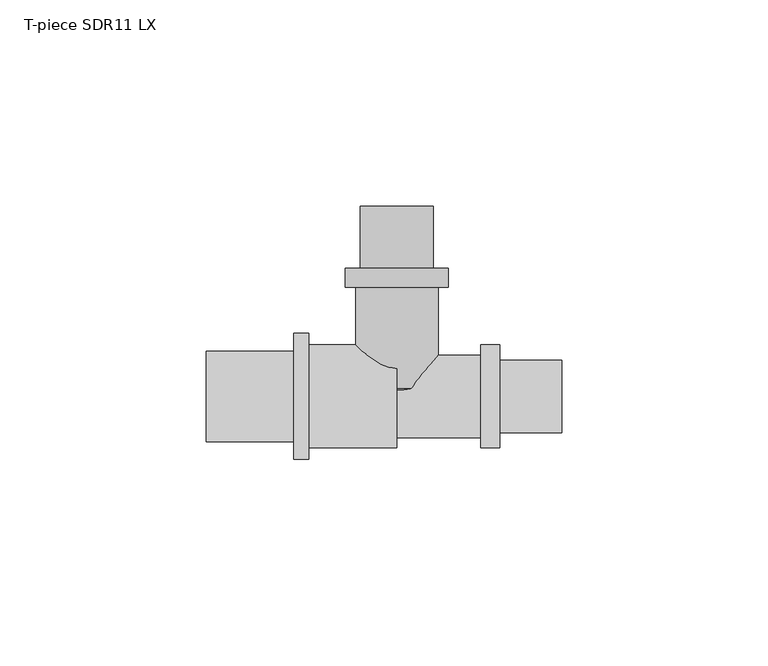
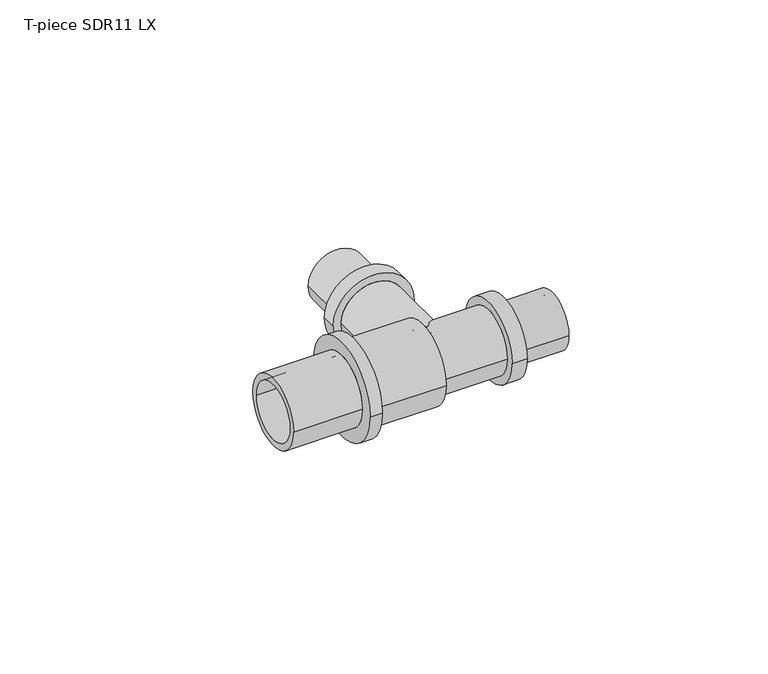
"""IFC4 building model written with IfcOpenShell, lengths in millimetres: pipe fitting geometry, T-piece SDR11 LX : T-piece LX SDR11 LX."""

from ifc_helpers import new_model, si_unit, point, frame, origin, place, context, project, spatial, polyline, circle_curve, ellipse_curve, trimmed, source, transform, mapped, element, save
from ifc_brep_helpers import plane_surface, cylinder_surface, revolved_surface, advanced_brep


def t_piece_sdr11_lx_fe109eb9(model_context):
    return source(origin(), model_context, "Body", "AdvancedBrep", [
        advanced_brep(
        [(10.0, 1.917756, 0.0), (-10.0, 1.917756, 0.0), (-10.0, 26.4, 0.0), (10.0, 26.4, 0.0), (6.8, 46.1, 0.0), (-6.8, 46.1, 0.0), (-6.8, 0.0, 0.0), (6.8, 0.0, 0.0), (8.8, 31.1, 0.0), (-8.8, 31.1, 0.0), (-8.8, 46.1, 0.0), (8.8, 46.1, 0.0), (12.5, 26.4, 0.0), (-12.5, 26.4, 0.0), (-12.5, 31.1, 0.0), (12.5, 31.1, 0.0)],
        [
            (0, 1, circle_curve(frame((0.0, 1.917756, 0.0), z_axis=(0.0, 1.0, 0.0), x_axis=(-1.0, 0.0, 0.0)), 10.0)),
            (1, 2),
            (2, 3, circle_curve(frame((0.0, 26.4, 0.0), z_axis=(0.0, -1.0, 0.0), x_axis=(-1.0, 0.0, 0.0)), 10.0)),
            (3, 0),
            (4, 5, circle_curve(frame((0.0, 46.1, 0.0), z_axis=(0.0, 1.0, 0.0), x_axis=(-1.0, 0.0, 0.0)), 6.8)),
            (5, 6),
            (6, 7, circle_curve(frame((0.0, 0.0, 0.0), z_axis=(0.0, -1.0, 0.0), x_axis=(-1.0, 0.0, 0.0)), 6.8)),
            (7, 4),
            (8, 9, circle_curve(frame((0.0, 31.1, 0.0), z_axis=(0.0, 1.0, 0.0), x_axis=(-1.0, 0.0, 0.0)), 8.8)),
            (9, 10),
            (10, 11, circle_curve(frame((0.0, 46.1, 0.0), z_axis=(0.0, -1.0, 0.0), x_axis=(-1.0, 0.0, 0.0)), 8.8)),
            (11, 8),
            (12, 13, circle_curve(frame((0.0, 26.4, 0.0), z_axis=(0.0, 1.0, 0.0), x_axis=(-1.0, 0.0, 0.0)), 12.5)),
            (13, 14),
            (14, 15, circle_curve(frame((0.0, 31.1, 0.0), z_axis=(0.0, -1.0, 0.0), x_axis=(-1.0, 0.0, 0.0)), 12.5)),
            (15, 12),
            (12, 13, circle_curve(frame((0.0, 26.4, 0.0), z_axis=(0.0, -1.0, 0.0), x_axis=(1.0, 0.0, 0.0)), 12.5)),
            (2, 3, circle_curve(frame((0.0, 26.4, 0.0), z_axis=(0.0, 1.0, 0.0), x_axis=(1.0, 0.0, 0.0)), 10.0)),
            (1, 0, circle_curve(frame((0.0, 1.917756, 0.0), z_axis=(0.0, 1.0, 0.0), x_axis=(1.0, 0.0, 0.0)), 10.0)),
            (5, 4, circle_curve(frame((0.0, 46.1, 0.0), z_axis=(0.0, 1.0, 0.0), x_axis=(1.0, 0.0, 0.0)), 6.8)),
            (7, 6, circle_curve(frame((0.0, 0.0, 0.0), z_axis=(0.0, -1.0, 0.0), x_axis=(1.0, 0.0, 0.0)), 6.8)),
            (10, 11, circle_curve(frame((0.0, 46.1, 0.0), z_axis=(0.0, 1.0, 0.0), x_axis=(1.0, 0.0, 0.0)), 8.8)),
            (9, 8, circle_curve(frame((0.0, 31.1, 0.0), z_axis=(0.0, 1.0, 0.0), x_axis=(1.0, 0.0, 0.0)), 8.8)),
            (14, 15, circle_curve(frame((0.0, 31.1, 0.0), z_axis=(0.0, 1.0, 0.0), x_axis=(1.0, 0.0, 0.0)), 12.5)),
            (6, 1, circle_curve(frame((-2.0462802, 11.5608022, 0.0), z_axis=(0.0, 0.0, -1.0), x_axis=(0.0, -1.0, 0.0)), 12.5)),
            (0, 7, circle_curve(frame((2.0462802, 11.5608022, 0.0), z_axis=(0.0, 0.0, -1.0), x_axis=(0.0, -1.0, 0.0)), 12.5)),
        ],
        [
            cylinder_surface(frame((0.0, 0.0, 0.0), z_axis=(0.0, -1.0, 0.0), x_axis=(-1.0, 0.0, 0.0)), 10.0),
            revolved_surface(polyline([(-6.8, 0.0, 0.0), (-6.8, 46.1, 0.0)]), (0.0, 0.0, 0.0), (0.0, -1.0, 0.0)),
            cylinder_surface(frame((0.0, 0.0, 0.0), z_axis=(0.0, -1.0, 0.0), x_axis=(-1.0, 0.0, 0.0)), 8.8),
            cylinder_surface(frame((0.0, 0.0, 0.0), z_axis=(0.0, -1.0, 0.0), x_axis=(-1.0, 0.0, 0.0)), 12.5),
            plane_surface(frame((0.0, 26.4, 0.0), z_axis=(0.0, -1.0, 0.0), x_axis=(1.0, 0.0, 0.0))),
            cylinder_surface(frame((0.0, 0.0, 0.0), z_axis=(0.0, -1.0, 0.0), x_axis=(1.0, 0.0, 0.0)), 10.0),
            revolved_surface(polyline([(6.8, 0.0, 0.0), (6.8, 46.1, 0.0)]), (0.0, 0.0, 0.0), (0.0, -1.0, 0.0)),
            plane_surface(frame((0.0, 46.1, 0.0), z_axis=(0.0, 1.0, 0.0), x_axis=(1.0, 0.0, 0.0))),
            cylinder_surface(frame((0.0, 0.0, 0.0), z_axis=(0.0, -1.0, 0.0), x_axis=(1.0, 0.0, 0.0)), 8.8),
            plane_surface(frame((0.0, 31.1, 0.0), z_axis=(0.0, 1.0, 0.0), x_axis=(1.0, 0.0, 0.0))),
            cylinder_surface(frame((0.0, 0.0, 0.0), z_axis=(0.0, -1.0, 0.0), x_axis=(1.0, 0.0, 0.0)), 12.5),
            revolved_surface(trimmed(ellipse_curve(frame((-2.0462802, 11.5608022, 0.0), z_axis=(0.0, 0.0, 1.0), x_axis=(0.0, -1.0, 0.0)), 12.5, 12.5), [point((-10.0, 1.917756, 0.0))], [point((-6.8, 0.0, 0.0))], True, "CARTESIAN"), (0.0, 0.0, 0.0), (0.0, -1.0, 0.0)),
            revolved_surface(trimmed(ellipse_curve(frame((2.0462802, 11.5608022, 0.0), z_axis=(0.0, 0.0, -1.0), x_axis=(0.0, -1.0, 0.0)), 12.5, 12.5), [point((10.0, 1.917756, 0.0))], [point((6.8, 0.0, 0.0))], True, "CARTESIAN"), (0.0, 0.0, 0.0), (0.0, -1.0, 0.0)),
        ],
        [
            (0, [[1, 2, 3, 4]]),
            (1, [[5, 6, 7, 8]]),
            (2, [[9, 10, 11, 12]]),
            (3, [[13, 14, 15, 16]]),
            (4, [[17, -13], [18, -3]]),
            (5, [[19, -4, -18, -2]]),
            (6, [[20, -8, 21, -6]]),
            (7, [[22, -11], [-20, -5]]),
            (8, [[23, -12, -22, -10]]),
            (9, [[24, -15], [-23, -9]]),
            (10, [[-17, -16, -24, -14]]),
            (11, [[-7, 25, -1, 26]]),
            (12, [[-21, -26, -19, -25]]),
        ],
    ),
        advanced_brep(
        [(20.3, 10.0, 0.0), (20.3, -10.0, 0.0), (0.0, -10.0, 0.0), (0.0, 10.0, 0.0), (0.0, 6.8, 0.0), (0.0, -6.8, 0.0), (40.0, -6.8, 0.0), (40.0, 6.8, 0.0), (40.0, 8.8, 0.0), (40.0, -8.8, 0.0), (25.0, -8.8, 0.0), (25.0, 8.8, 0.0), (25.0, 12.5, 0.0), (25.0, -12.5, 0.0), (20.3, -12.5, 0.0), (20.3, 12.5, 0.0)],
        [
            (0, 1, circle_curve(frame((20.3, 0.0, 0.0), z_axis=(-1.0, 0.0, 0.0), x_axis=(0.0, -1.0, 0.0)), 10.0)),
            (1, 2),
            (2, 3, circle_curve(frame((0.0, 0.0, 0.0), z_axis=(1.0, 0.0, 0.0), x_axis=(0.0, -1.0, 0.0)), 10.0)),
            (3, 0),
            (4, 5, circle_curve(frame((0.0, 0.0, 0.0), z_axis=(-1.0, 0.0, 0.0), x_axis=(0.0, -1.0, 0.0)), 6.8)),
            (5, 6),
            (6, 7, circle_curve(frame((40.0, 0.0, 0.0), z_axis=(1.0, 0.0, 0.0), x_axis=(0.0, -1.0, 0.0)), 6.8)),
            (7, 4),
            (8, 9, circle_curve(frame((40.0, 0.0, 0.0), z_axis=(-1.0, 0.0, 0.0), x_axis=(0.0, -1.0, 0.0)), 8.8)),
            (9, 10),
            (10, 11, circle_curve(frame((25.0, 0.0, 0.0), z_axis=(1.0, 0.0, 0.0), x_axis=(0.0, -1.0, 0.0)), 8.8)),
            (11, 8),
            (12, 13, circle_curve(frame((25.0, 0.0, 0.0), z_axis=(-1.0, 0.0, 0.0), x_axis=(0.0, -1.0, 0.0)), 12.5)),
            (13, 14),
            (14, 15, circle_curve(frame((20.3, 0.0, 0.0), z_axis=(1.0, 0.0, 0.0), x_axis=(0.0, -1.0, 0.0)), 12.5)),
            (15, 12),
            (14, 15, circle_curve(frame((20.3, 0.0, 0.0), z_axis=(-1.0, 0.0, 0.0), x_axis=(0.0, 1.0, 0.0)), 12.5)),
            (0, 1, circle_curve(frame((20.3, 0.0, 0.0), z_axis=(1.0, 0.0, 0.0), x_axis=(0.0, 1.0, 0.0)), 10.0)),
            (3, 2, circle_curve(frame((0.0, 0.0, 0.0), z_axis=(1.0, 0.0, 0.0), x_axis=(0.0, 1.0, 0.0)), 10.0)),
            (4, 5, circle_curve(frame((0.0, 0.0, 0.0), z_axis=(1.0, 0.0, 0.0), x_axis=(0.0, 1.0, 0.0)), 6.8)),
            (7, 6, circle_curve(frame((40.0, 0.0, 0.0), z_axis=(1.0, 0.0, 0.0), x_axis=(0.0, 1.0, 0.0)), 6.8)),
            (8, 9, circle_curve(frame((40.0, 0.0, 0.0), z_axis=(1.0, 0.0, 0.0), x_axis=(0.0, 1.0, 0.0)), 8.8)),
            (11, 10, circle_curve(frame((25.0, 0.0, 0.0), z_axis=(1.0, 0.0, 0.0), x_axis=(0.0, 1.0, 0.0)), 8.8)),
            (12, 13, circle_curve(frame((25.0, 0.0, 0.0), z_axis=(1.0, 0.0, 0.0), x_axis=(0.0, 1.0, 0.0)), 12.5)),
        ],
        [
            cylinder_surface(frame((0.0, 0.0, 0.0), z_axis=(1.0, 0.0, 0.0), x_axis=(0.0, -1.0, 0.0)), 10.0),
            revolved_surface(polyline([(40.0, -6.8, 0.0), (0.0, -6.8, 0.0)]), (0.0, 0.0, 0.0), (1.0, 0.0, 0.0)),
            cylinder_surface(frame((0.0, 0.0, 0.0), z_axis=(1.0, 0.0, 0.0), x_axis=(0.0, -1.0, 0.0)), 8.8),
            cylinder_surface(frame((0.0, 0.0, 0.0), z_axis=(1.0, 0.0, 0.0), x_axis=(0.0, -1.0, 0.0)), 12.5),
            plane_surface(frame((20.3, 0.0, 0.0), z_axis=(-1.0, 0.0, 0.0), x_axis=(0.0, 1.0, 0.0))),
            cylinder_surface(frame((0.0, 0.0, 0.0), z_axis=(1.0, 0.0, 0.0), x_axis=(0.0, 1.0, 0.0)), 10.0),
            plane_surface(frame((0.0, 0.0, 0.0), z_axis=(-1.0, 0.0, 0.0), x_axis=(0.0, 1.0, 0.0))),
            revolved_surface(polyline([(40.0, 6.8, 0.0), (0.0, 6.8, 0.0)]), (0.0, 0.0, 0.0), (1.0, 0.0, 0.0)),
            plane_surface(frame((40.0, 0.0, 0.0), z_axis=(1.0, 0.0, 0.0), x_axis=(0.0, 1.0, 0.0))),
            cylinder_surface(frame((0.0, 0.0, 0.0), z_axis=(1.0, 0.0, 0.0), x_axis=(0.0, 1.0, 0.0)), 8.8),
            plane_surface(frame((25.0, 0.0, 0.0), z_axis=(1.0, 0.0, 0.0), x_axis=(0.0, 1.0, 0.0))),
            cylinder_surface(frame((0.0, 0.0, 0.0), z_axis=(1.0, 0.0, 0.0), x_axis=(0.0, 1.0, 0.0)), 12.5),
        ],
        [
            (0, [[1, 2, 3, 4]]),
            (1, [[5, 6, 7, 8]]),
            (2, [[9, 10, 11, 12]]),
            (3, [[13, 14, 15, 16]]),
            (4, [[17, -15], [18, -1]]),
            (5, [[-18, -4, 19, -2]]),
            (6, [[-19, -3], [20, -5]]),
            (7, [[-20, -8, 21, -6]]),
            (8, [[22, -9], [-21, -7]]),
            (9, [[-22, -12, 23, -10]]),
            (10, [[24, -13], [-23, -11]]),
            (11, [[-24, -16, -17, -14]]),
        ],
    ),
        advanced_brep(
        [(0.0, 12.5, 0.0), (0.0, -12.5, 0.0), (-21.3, -12.5, 0.0), (-21.3, 12.5, 0.0), (-46.2, 8.9, 0.0), (-46.2, -8.9, 0.0), (0.0, -8.9, 0.0), (0.0, 8.9, 0.0), (-25.0, 10.95, 0.0), (-25.0, -10.95, 0.0), (-46.2, -10.95, 0.0), (-46.2, 10.95, 0.0), (-21.3, 15.25, 0.0), (-21.3, -15.25, 0.0), (-25.0, -15.25, 0.0), (-25.0, 15.25, 0.0)],
        [
            (0, 1, circle_curve(frame((0.0, 0.0, 0.0), z_axis=(-1.0, 0.0, 0.0), x_axis=(0.0, -1.0, 0.0)), 12.5)),
            (1, 2),
            (2, 3, circle_curve(frame((-21.3, 0.0, 0.0), z_axis=(1.0, 0.0, 0.0), x_axis=(0.0, -1.0, 0.0)), 12.5)),
            (3, 0),
            (4, 5, circle_curve(frame((-46.2, 0.0, 0.0), z_axis=(-1.0, 0.0, 0.0), x_axis=(0.0, -1.0, 0.0)), 8.9)),
            (5, 6),
            (6, 7, circle_curve(frame((0.0, 0.0, 0.0), z_axis=(1.0, 0.0, 0.0), x_axis=(0.0, -1.0, 0.0)), 8.9)),
            (7, 4),
            (8, 9, circle_curve(frame((-25.0, 0.0, 0.0), z_axis=(-1.0, 0.0, 0.0), x_axis=(0.0, -1.0, 0.0)), 10.95)),
            (9, 10),
            (10, 11, circle_curve(frame((-46.2, 0.0, 0.0), z_axis=(1.0, 0.0, 0.0), x_axis=(0.0, -1.0, 0.0)), 10.95)),
            (11, 8),
            (12, 13, circle_curve(frame((-21.3, 0.0, 0.0), z_axis=(-1.0, 0.0, 0.0), x_axis=(0.0, -1.0, 0.0)), 15.25)),
            (13, 14),
            (14, 15, circle_curve(frame((-25.0, 0.0, 0.0), z_axis=(1.0, 0.0, 0.0), x_axis=(0.0, -1.0, 0.0)), 15.25)),
            (15, 12),
            (12, 13, circle_curve(frame((-21.3, 0.0, 0.0), z_axis=(1.0, 0.0, 0.0), x_axis=(0.0, 1.0, 0.0)), 15.25)),
            (2, 3, circle_curve(frame((-21.3, 0.0, 0.0), z_axis=(-1.0, 0.0, 0.0), x_axis=(0.0, 1.0, 0.0)), 12.5)),
            (1, 0, circle_curve(frame((0.0, 0.0, 0.0), z_axis=(-1.0, 0.0, 0.0), x_axis=(0.0, 1.0, 0.0)), 12.5)),
            (6, 7, circle_curve(frame((0.0, 0.0, 0.0), z_axis=(-1.0, 0.0, 0.0), x_axis=(0.0, 1.0, 0.0)), 8.9)),
            (5, 4, circle_curve(frame((-46.2, 0.0, 0.0), z_axis=(-1.0, 0.0, 0.0), x_axis=(0.0, 1.0, 0.0)), 8.9)),
            (10, 11, circle_curve(frame((-46.2, 0.0, 0.0), z_axis=(-1.0, 0.0, 0.0), x_axis=(0.0, 1.0, 0.0)), 10.95)),
            (9, 8, circle_curve(frame((-25.0, 0.0, 0.0), z_axis=(-1.0, 0.0, 0.0), x_axis=(0.0, 1.0, 0.0)), 10.95)),
            (14, 15, circle_curve(frame((-25.0, 0.0, 0.0), z_axis=(-1.0, 0.0, 0.0), x_axis=(0.0, 1.0, 0.0)), 15.25)),
        ],
        [
            cylinder_surface(frame((0.0, 0.0, 0.0), z_axis=(1.0, 0.0, 0.0), x_axis=(0.0, -1.0, 0.0)), 12.5),
            revolved_surface(polyline([(0.0, -8.9, 0.0), (-46.2, -8.9, 0.0)]), (0.0, 0.0, 0.0), (1.0, 0.0, 0.0)),
            cylinder_surface(frame((0.0, 0.0, 0.0), z_axis=(1.0, 0.0, 0.0), x_axis=(0.0, -1.0, 0.0)), 10.95),
            cylinder_surface(frame((0.0, 0.0, 0.0), z_axis=(1.0, 0.0, 0.0), x_axis=(0.0, -1.0, 0.0)), 15.25),
            plane_surface(frame((-21.3, 0.0, 0.0), z_axis=(1.0, 0.0, 0.0), x_axis=(0.0, 1.0, 0.0))),
            cylinder_surface(frame((0.0, 0.0, 0.0), z_axis=(1.0, 0.0, 0.0), x_axis=(0.0, 1.0, 0.0)), 12.5),
            plane_surface(frame((0.0, 0.0, 0.0), z_axis=(1.0, 0.0, 0.0), x_axis=(0.0, 1.0, 0.0))),
            revolved_surface(polyline([(0.0, 8.9, 0.0), (-46.2, 8.9, 0.0)]), (0.0, 0.0, 0.0), (1.0, 0.0, 0.0)),
            plane_surface(frame((-46.2, 0.0, 0.0), z_axis=(-1.0, 0.0, 0.0), x_axis=(0.0, 1.0, 0.0))),
            cylinder_surface(frame((0.0, 0.0, 0.0), z_axis=(1.0, 0.0, 0.0), x_axis=(0.0, 1.0, 0.0)), 10.95),
            plane_surface(frame((-25.0, 0.0, 0.0), z_axis=(-1.0, 0.0, 0.0), x_axis=(0.0, 1.0, 0.0))),
            cylinder_surface(frame((0.0, 0.0, 0.0), z_axis=(1.0, 0.0, 0.0), x_axis=(0.0, 1.0, 0.0)), 15.25),
        ],
        [
            (0, [[1, 2, 3, 4]]),
            (1, [[5, 6, 7, 8]]),
            (2, [[9, 10, 11, 12]]),
            (3, [[13, 14, 15, 16]]),
            (4, [[17, -13], [18, -3]]),
            (5, [[19, -4, -18, -2]]),
            (6, [[-19, -1], [20, -7]]),
            (7, [[21, -8, -20, -6]]),
            (8, [[22, -11], [-21, -5]]),
            (9, [[23, -12, -22, -10]]),
            (10, [[24, -15], [-23, -9]]),
            (11, [[-17, -16, -24, -14]]),
        ],
    ),
    ])


if __name__ == "__main__":
    model = new_model("IFC4")
    model_context = context("Model", 3, world=origin())
    ifc_project = project(units=[si_unit("LENGTHUNIT", "METRE", prefix="MILLI")], contexts=[model_context])
    site = spatial("IfcSite", under=ifc_project)
    building = spatial("IfcBuilding", under=site)
    placement = place(None, origin())
    t_piece_sdr11_lx_shape = t_piece_sdr11_lx_fe109eb9(model_context)
    element("IfcPipeFitting", 1, ObjectType="T-piece SDR11 LX : T-piece LX SDR11 LX", at=placement, inside=building, context=model_context, shape_type="MappedRepresentation", body=[
        mapped(t_piece_sdr11_lx_shape, transform((0.0, 0.0, 0.0), x_axis=(1.0, 0.0, 0.0), y_axis=(0.0, 1.0, 0.0), z_axis=(0.0, 0.0, 1.0))),
    ])
    save(model, "model.ifc")
